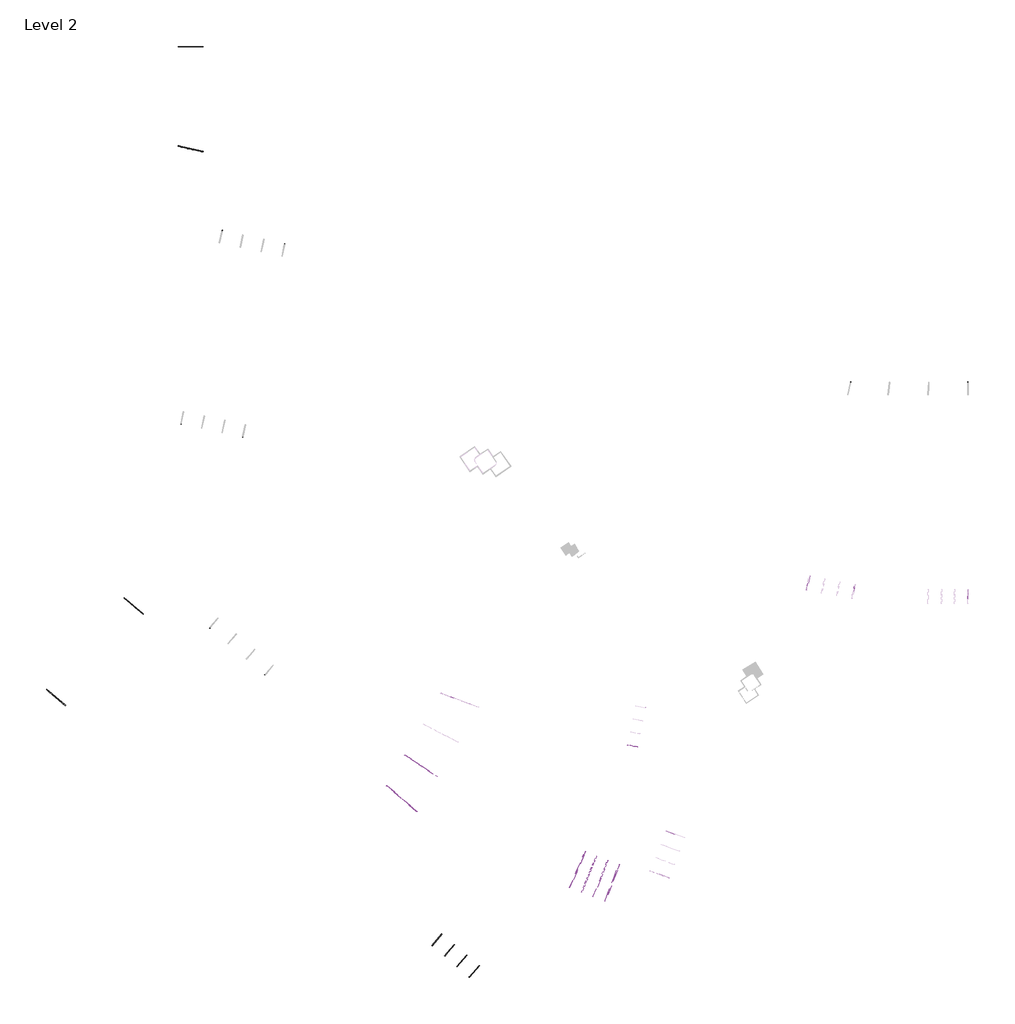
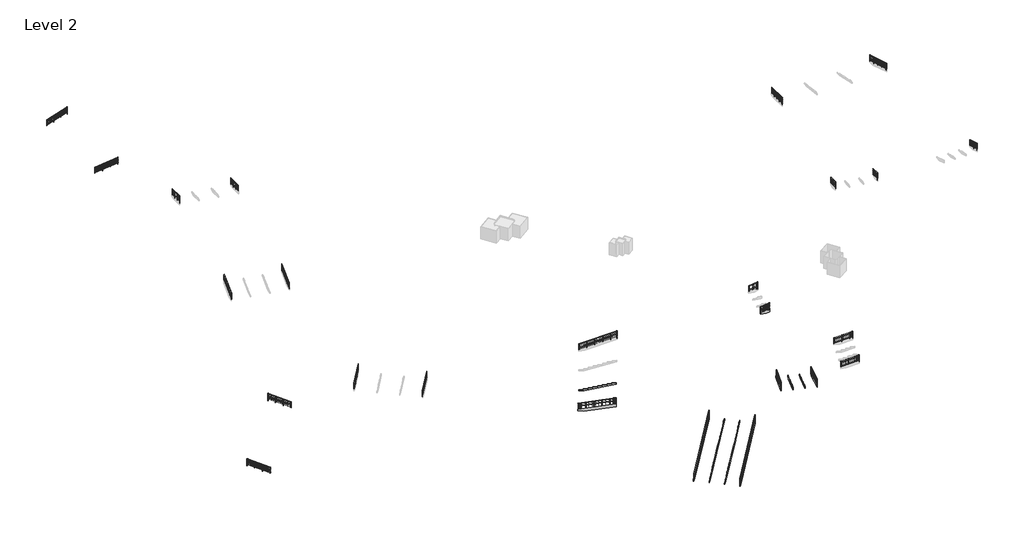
# One storey, part 1 of 2: 25 railings, 11 members.
"""IFC4 building model written with IfcOpenShell, lengths in millimetres."""

from ifc_helpers import new_model, si_unit, frame, origin, place, context, project, spatial, polyline, outline, extrude, faceted_brep, transform, mapped, element, save
from components import railing_900mm_pipe_5b70dc80, railing_900mm_pipe_01e81c91, railing_900mm_pipe_7b3382e1, railing_900mm_pipe_139b20a3, railing_900mm_pipe_c59341c0, railing_900mm_pipe_108c50bf, railing_900mm_pipe_f281c3b3, railing_900mm_pipe_21d8ad47, railing_900mm_pipe_b263f094, railing_900mm_pipe_6dc71ccd, railing_900mm_pipe_92d42454, railing_900mm_pipe_595f3362, railing_900mm_pipe_a12cd0a8, railing_900mm_pipe_9d331aa4, railing_900mm_pipe_833d7426, railing_900mm_pipe_d280c50c, railing_900mm_pipe_afd1aac6, railing_900mm_pipe_5749f562, railing_900mm_pipe_1b75225c, railing_900mm_pipe_fb3da771, railing_900mm_pipe_3a22cfcf, railing_900mm_pipe_d22c0310, railing_900mm_pipe_16247699, railing_900mm_pipe_515d095b, railing_900mm_pipe_20712208

model = new_model("IFC4")

# Units and contexts
model_context = context("Model", 3, world=origin())
ifc_project = project(units=[si_unit("LENGTHUNIT", "METRE", prefix="MILLI")], contexts=[model_context])

# Site, building, storey
site = spatial("IfcSite", under=ifc_project)
building = spatial("IfcBuilding", under=site)
storey = spatial("IfcBuildingStorey", under=building, Name="Level 2", Elevation=4050.0)

# Members
placement = place(None, origin())
element("IfcMember", 1, ObjectType="Stringer - Miscellaneous - 50 mm Width", at=placement, inside=storey, context=model_context, shape_type="SweptSolid", body=[
    extrude(outline(polyline([(121.8836406, -399.9999999), (63.7761968, -209.3019097), (750.6670993, 0.0), (1230.2416302, 1e-07), (1352.1252708, -400.0), (121.8836406, -399.9999999)])), frame((942684.5501295, -35.1985127, 7281.1971374), z_axis=(0.20819542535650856, 0.9780872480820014, 0.0), x_axis=(0.9356163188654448, -0.19915507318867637, 0.29147789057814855)), (0.0, 0.0, 1.0), 50.0),
])
element("IfcMember", 2, ObjectType="Stringer - Miscellaneous - 50 mm Width", at=placement, inside=storey, context=model_context, shape_type="SweptSolid", body=[
    extrude(outline(polyline([(-58.107402, -190.6980937), (0.0, 0.0), (4920.9698364, 0.0), (4799.0862855, -400.0), (628.7839951, -400.0), (-58.107402, -190.6980937)])), frame((941713.4770551, -14235.6768633, 7699.3545412), z_axis=(-0.9347967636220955, 0.3551830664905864, 0.0), x_axis=(-0.3397601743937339, -0.8942056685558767, 0.2914776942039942)), (0.0, 0.0, 1.0), 50.0),
])
element("IfcMember", 3, ObjectType="Stringer - Miscellaneous - 50 mm Width", at=placement, inside=storey, context=model_context, shape_type="SweptSolid", body=[
    extrude(outline(polyline([(-58.0694263, -190.7011786), (0.0, 0.0), (4923.9875666, 0.0), (4802.1856422, -400.0), (629.2721651, -400.0), (-58.0694263, -190.7011786)])), frame((937634.4512033, -12691.417254, 7699.3464266), z_axis=(-0.9216376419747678, 0.3880516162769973, 0.0), x_axis=(-0.37122260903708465, -0.8816680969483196, 0.2912990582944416)), (0.0, 0.0, 1.0), 50.0),
])
element("IfcMember", 4, ObjectType="Carriage - Miscellaneous - 50 mm Width", at=placement, inside=storey, context=model_context, shape_type="Brep", body=[
    faceted_brep([(938989.6731788, -13239.2138631, 7500.0), (938730.8031414, -13874.9050789, 7500.0), (938684.4955899, -13856.0474366, 7500.0), (938942.8974132, -13221.5059854, 7500.0), (937179.4792346, -17551.8234571, 8715.5572883), (937225.7867861, -17570.6810994, 8715.5572883), (937225.7867861, -17570.6810994, 8884.3529412), (937179.4792346, -17551.8234571, 8884.3529412), (938989.6731788, -13239.2138631, 7629.2941176), (938767.6839875, -13784.3390555, 7629.2941176), (938767.6839875, -13784.3390555, 7808.5882353), (938545.6947961, -14329.4642478, 7808.5882353), (938545.6947961, -14329.4642478, 7987.8823529), (938323.7056048, -14874.5894402, 7987.8823529), (938323.7056048, -14874.5894402, 8167.1764706), (938101.7164134, -15419.7146326, 8167.1764706), (938101.7164134, -15419.7146326, 8346.4705882), (937879.7272221, -15964.8398249, 8346.4705882), (937879.7272221, -15964.8398249, 8525.7647059), (937657.7380307, -16509.9650173, 8525.7647059), (937657.7380307, -16509.9650173, 8705.0588235), (937435.7488394, -17055.0902097, 8705.0588235), (937435.7488394, -17055.0902097, 8884.3529412), (937388.9730737, -17037.382332, 8884.3529412), (937388.9730737, -17037.382332, 8705.0588235), (937610.9622651, -16492.2571396, 8705.0588235), (937610.9622651, -16492.2571396, 8525.7647059), (937832.9514564, -15947.1319472, 8525.7647059), (937832.9514564, -15947.1319472, 8346.4705882), (938054.9406478, -15402.0067549, 8346.4705882), (938054.9406478, -15402.0067549, 8167.1764706), (938276.9298391, -14856.8815625, 8167.1764706), (938276.9298391, -14856.8815625, 7987.8823529), (938498.9190305, -14311.7563701, 7987.8823529), (938498.9190305, -14311.7563701, 7808.5882353), (938720.9082218, -13766.6311778, 7808.5882353), (938720.9082218, -13766.6311778, 7629.2941176), (938942.8974132, -13221.5059854, 7629.2941176)], [[[0, 1, 2, 3]], [[4, 5, 6, 7]], [[5, 4, 2, 1]], [[6, 5, 1, 0, 8, 9, 10, 11, 12, 13, 14, 15, 16, 17, 18, 19, 20, 21, 22]], [[22, 23, 7, 6]], [[4, 7, 23, 24, 25, 26, 27, 28, 29, 30, 31, 32, 33, 34, 35, 36, 37, 3, 2]], [[37, 8, 0, 3]], [[8, 37, 36, 9]], [[9, 36, 35, 10]], [[10, 35, 34, 11]], [[11, 34, 33, 12]], [[12, 33, 32, 13]], [[13, 32, 31, 14]], [[14, 31, 30, 15]], [[15, 30, 29, 16]], [[16, 29, 28, 17]], [[17, 28, 27, 18]], [[18, 27, 26, 19]], [[19, 26, 25, 20]], [[20, 25, 24, 21]], [[21, 24, 23, 22]]]),
])
element("IfcMember", 5, ObjectType="Carriage - Miscellaneous - 50 mm Width", at=placement, inside=storey, context=model_context, shape_type="Brep", body=[
    faceted_brep([(940334.1221866, -13748.181237, 7500.0), (940082.9311858, -14386.4823785, 7500.0), (940036.4042822, -14368.1726204, 7500.0), (940287.3568682, -13730.4773143, 7500.0), (938575.4468769, -18080.6096763, 8715.5520622), (938621.9737805, -18098.9194344, 8715.5520622), (938621.9737805, -18098.9194344, 8884.3529412), (938575.4468769, -18080.6096763, 8884.3529412), (940334.1221866, -13748.181237, 7629.2941176), (940118.6307428, -14295.7662784, 7629.2941176), (940118.6307428, -14295.7662784, 7808.5882353), (939903.139299, -14843.3513197, 7808.5882353), (939903.139299, -14843.3513197, 7987.8823529), (939687.6478552, -15390.9363611, 7987.8823529), (939687.6478552, -15390.9363611, 8167.1764706), (939472.1564114, -15938.5214024, 8167.1764706), (939472.1564114, -15938.5214024, 8346.4705882), (939256.6649676, -16486.1064437, 8346.4705882), (939256.6649676, -16486.1064437, 8525.7647059), (939041.1735238, -17033.6914851, 8525.7647059), (939041.1735238, -17033.6914851, 8705.0588235), (938825.68208, -17581.2765264, 8705.0588235), (938825.68208, -17581.2765264, 8884.3529412), (938778.9167617, -17563.5726038, 8884.3529412), (938778.9167617, -17563.5726038, 8705.0588235), (938994.4082055, -17015.9875624, 8705.0588235), (938994.4082055, -17015.9875624, 8525.7647059), (939209.8996493, -16468.4025211, 8525.7647059), (939209.8996493, -16468.4025211, 8346.4705882), (939425.391093, -15920.8174797, 8346.4705882), (939425.391093, -15920.8174797, 8167.1764706), (939640.8825368, -15373.2324384, 8167.1764706), (939640.8825368, -15373.2324384, 7987.8823529), (939856.3739806, -14825.647397, 7987.8823529), (939856.3739806, -14825.647397, 7808.5882353), (940071.8654244, -14278.0623557, 7808.5882353), (940071.8654244, -14278.0623557, 7629.2941176), (940287.3568682, -13730.4773143, 7629.2941176)], [[[0, 1, 2, 3]], [[4, 5, 6, 7]], [[5, 4, 2, 1]], [[6, 5, 1, 0, 8, 9, 10, 11, 12, 13, 14, 15, 16, 17, 18, 19, 20, 21, 22]], [[22, 23, 7, 6]], [[4, 7, 23, 24, 25, 26, 27, 28, 29, 30, 31, 32, 33, 34, 35, 36, 37, 3, 2]], [[37, 8, 0, 3]], [[8, 37, 36, 9]], [[9, 36, 35, 10]], [[10, 35, 34, 11]], [[11, 34, 33, 12]], [[12, 33, 32, 13]], [[13, 32, 31, 14]], [[14, 31, 30, 15]], [[15, 30, 29, 16]], [[16, 29, 28, 17]], [[17, 28, 27, 18]], [[18, 27, 26, 19]], [[19, 26, 25, 20]], [[20, 25, 24, 21]], [[21, 24, 23, 22]]]),
])
element("IfcMember", 6, ObjectType="Stringer - Miscellaneous - 50 mm Width", at=placement, inside=storey, context=model_context, shape_type="SweptSolid", body=[
    extrude(outline(polyline([(92.9620986, -400.0), (38.7231735, -166.6191882), (755.6570235, 0.0), (10712.573424, 0.0), (10805.5355226, -400.0), (92.9620986, -400.0)])), frame((919403.4543344, -23932.3659661, 4828.9402501), z_axis=(-0.7621511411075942, 0.6473991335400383, 0.0), x_axis=(0.6305932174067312, 0.7423663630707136, 0.22637220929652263)), (0.0, 0.0, 1.0), 50.0),
])
element("IfcMember", 7, ObjectType="Stringer - Miscellaneous - 50 mm Width", at=placement, inside=storey, context=model_context, shape_type="SweptSolid", body=[
    extrude(outline(polyline([(92.9620988, -400.0), (38.7231736, -166.6191882), (755.6570225, 0.0), (10712.5734078, 0.0), (10805.5355065, -400.0), (92.9620988, -400.0)])), frame((923835.1540285, -27696.3827793, 4828.9402501), z_axis=(-0.7621877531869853, 0.6473560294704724, 0.0), x_axis=(0.6305512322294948, 0.7424020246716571, 0.22637220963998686)), (0.0, 0.0, 1.0), 50.0),
])
element("IfcMember", 8, ObjectType="Carriage - Miscellaneous - 50 mm Width", at=placement, inside=storey, context=model_context, shape_type="Brep", body=[
    faceted_brep([(922334.4993828, -26379.1773678, 5000.0), (922789.9511924, -25842.9553929, 5000.0), (922828.0599698, -25875.3239127, 5000.0), (922372.6087704, -26411.5451693, 5000.0), (927145.5276349, -20714.9577584, 6563.6470588), (927183.6364123, -20747.3262783, 6563.6470588), (923477.2585294, -25033.7604573, 5657.4029483), (923504.4829105, -25001.7080841, 5667.1764706), (923858.178245, -24585.2881538, 5667.1764706), (923858.178245, -24585.2881538, 5794.1526991), (924003.910982, -24413.7110639, 5846.4705882), (924239.0979606, -24136.8158503, 5846.4705882), (924239.0979606, -24136.8158503, 5930.9024498), (924503.3390535, -23825.7140437, 6025.7647059), (924620.0176761, -23688.3435468, 6025.7647059), (924620.0176761, -23688.3435468, 6067.6522006), (926001.623268, -22061.7229833, 6563.6470588), (922334.4993828, -26379.1773678, 5129.2941176), (922715.4190983, -25930.7050643, 5129.2941176), (922715.4190983, -25930.7050643, 5308.5882353), (923096.3388139, -25482.2327608, 5308.5882353), (923096.3388139, -25482.2327608, 5487.8823529), (923477.2585294, -25033.7604573, 5487.8823529), (923542.591688, -25034.076604, 5667.1764706), (923515.3679171, -25066.1282588, 5657.4031674), (923515.3679171, -25066.1282588, 5487.8823529), (923134.4482016, -25514.6005623, 5487.8823529), (923134.4482016, -25514.6005623, 5308.5882353), (922753.528486, -25963.0728658, 5308.5882353), (922753.528486, -25963.0728658, 5129.2941176), (922372.6087704, -26411.5451693, 5129.2941176), (926039.7320455, -22094.0915032, 6563.6470588), (924658.1270638, -23720.7113482, 6067.6524196), (924658.1270638, -23720.7113482, 6025.7647059), (924541.447831, -23858.0825636, 6025.7647059), (924277.2073482, -24169.1836517, 5930.9026689), (924277.2073482, -24169.1836517, 5846.4705882), (924042.0197595, -24446.0795838, 5846.4705882), (923896.2876327, -24617.6559553, 5794.1529181), (923896.2876327, -24617.6559553, 5667.1764706)], [[[0, 1, 2, 3]], [[1, 4, 5, 2]], [[6, 7, 8, 9, 10, 11, 12, 13, 14, 15, 16, 4, 1, 0, 17, 18, 19, 20, 21, 22]], [[23, 24, 25, 26, 27, 28, 29, 30, 3, 2, 5, 31, 32, 33, 34, 35, 36, 37, 38, 39]], [[24, 23, 7, 6]], [[38, 37, 10, 9]], [[35, 34, 13, 12]], [[32, 31, 16, 15]], [[39, 8, 7, 23]], [[22, 25, 24, 6]], [[36, 11, 10, 37]], [[8, 39, 38, 9]], [[33, 14, 13, 34]], [[11, 36, 35, 12]], [[16, 31, 5, 4]], [[14, 33, 32, 15]], [[30, 17, 0, 3]], [[17, 30, 29, 18]], [[18, 29, 28, 19]], [[19, 28, 27, 20]], [[20, 27, 26, 21]], [[21, 26, 25, 22]]]),
    faceted_brep([(929106.5452166, -18483.4073849, 7253.9691633), (929068.4364391, -18451.0388651, 7253.9691633), (929068.4364391, -18451.0388651, 7460.1176471), (929106.5452166, -18483.4073849, 7460.1176471), (927222.9864818, -20700.9978379, 6577.7736897), (927184.8770942, -20668.6300364, 6577.7734706), (927184.8770942, -20668.6300364, 6742.9411765), (927565.7968097, -20220.1577329, 6742.9411765), (927565.7968097, -20220.1577329, 6922.2352941), (927946.7165253, -19771.6854294, 6922.2352941), (927946.7165253, -19771.6854294, 7101.5294118), (928327.6362408, -19323.2131259, 7101.5294118), (928327.6362408, -19323.2131259, 7280.8235294), (928708.5559564, -18874.7408224, 7280.8235294), (928708.5559564, -18874.7408224, 7460.1176471), (928746.6653441, -18907.1086239, 7460.1176471), (928746.6653441, -18907.1086239, 7280.8235294), (928365.7456285, -19355.5809274, 7280.8235294), (928365.7456285, -19355.5809274, 7101.5294118), (927984.8259129, -19804.0532309, 7101.5294118), (927984.8259129, -19804.0532309, 6922.2352941), (927603.9061974, -20252.5255344, 6922.2352941), (927603.9061974, -20252.5255344, 6742.9411765), (927222.9864818, -20700.9978379, 6742.9411765)], [[[0, 1, 2, 3]], [[1, 0, 4, 5]], [[2, 1, 5, 6, 7, 8, 9, 10, 11, 12, 13, 14]], [[14, 15, 3, 2]], [[0, 3, 15, 16, 17, 18, 19, 20, 21, 22, 23, 4]], [[23, 6, 5, 4]], [[6, 23, 22, 7]], [[7, 22, 21, 8]], [[8, 21, 20, 9]], [[9, 20, 19, 10]], [[10, 19, 18, 11]], [[11, 18, 17, 12]], [[12, 17, 16, 13]], [[13, 16, 15, 14]]]),
])
element("IfcMember", 9, ObjectType="Carriage - Miscellaneous - 50 mm Width", at=placement, inside=storey, context=model_context, shape_type="Brep", body=[
    faceted_brep([(920869.9697476, -25135.2947605, 5000.0), (921325.431971, -24599.0810121, 5000.0), (921363.5401383, -24631.4502504, 5000.0), (920908.0791353, -25167.662562, 5000.0), (925681.1050854, -19471.1654849, 6563.6470588), (925719.2132527, -19503.5347232, 6563.6470588), (922012.7542578, -23789.8993922, 5657.4028388), (922039.9795482, -23757.847173, 5667.1764706), (922393.6824278, -23341.4342695, 5667.1764706), (922393.6824278, -23341.4342695, 5794.1525895), (922539.4187045, -23169.8595676, 5846.4705882), (922774.6105979, -22892.9691467, 5846.4705882), (922774.6105979, -22892.9691467, 5930.9023403), (923038.8578608, -22581.8719622, 6025.7647059), (923155.5387679, -22444.5040239, 6025.7647059), (923155.5387679, -22444.5040239, 6067.652091), (924537.1753297, -20817.909146, 6563.6470588), (920869.9697476, -25135.2947605, 5129.2941176), (921250.8979177, -24686.8296378, 5129.2941176), (921250.8979177, -24686.8296378, 5308.5882353), (921631.8260877, -24238.364515, 5308.5882353), (921631.8260877, -24238.364515, 5487.8823529), (922012.7542578, -23789.8993922, 5487.8823529), (922078.0877155, -23790.2164113, 5667.1764706), (922050.8636455, -23822.2671937, 5657.4032769), (922050.8636455, -23822.2671937, 5487.8823529), (921669.9354754, -24270.7323165, 5487.8823529), (921669.9354754, -24270.7323165, 5308.5882353), (921289.0073053, -24719.1974393, 5308.5882353), (921289.0073053, -24719.1974393, 5129.2941176), (920908.0791353, -25167.662562, 5129.2941176), (924575.283497, -20850.2783842, 6563.6470588), (923193.6481556, -22476.8718254, 6067.6525291), (923193.6481556, -22476.8718254, 6025.7647059), (923076.9660281, -22614.2412005, 6025.7647059), (922812.7199856, -22925.3369482, 5930.9027784), (922812.7199856, -22925.3369482, 5846.4705882), (922577.5268718, -23202.2288059, 5846.4705882), (922431.7918155, -23373.802071, 5794.1530276), (922431.7918155, -23373.802071, 5667.1764706)], [[[0, 1, 2, 3]], [[1, 4, 5, 2]], [[6, 7, 8, 9, 10, 11, 12, 13, 14, 15, 16, 4, 1, 0, 17, 18, 19, 20, 21, 22]], [[23, 24, 25, 26, 27, 28, 29, 30, 3, 2, 5, 31, 32, 33, 34, 35, 36, 37, 38, 39]], [[24, 23, 7, 6]], [[38, 37, 10, 9]], [[35, 34, 13, 12]], [[32, 31, 16, 15]], [[39, 8, 7, 23]], [[22, 25, 24, 6]], [[36, 11, 10, 37]], [[8, 39, 38, 9]], [[33, 14, 13, 34]], [[11, 36, 35, 12]], [[16, 31, 5, 4]], [[14, 33, 32, 15]], [[30, 17, 0, 3]], [[17, 30, 29, 18]], [[18, 29, 28, 19]], [[19, 28, 27, 20]], [[20, 27, 26, 21]], [[21, 26, 25, 22]]]),
    faceted_brep([(927642.1647359, -17239.6520787, 7253.9691633), (927604.0565686, -17207.2828404, 7253.9691633), (927604.0565686, -17207.2828404, 7460.1176471), (927642.1647359, -17239.6520787, 7460.1176471), (925758.5645007, -19457.2066654, 6577.7737992), (925720.455113, -19424.8388639, 6577.7733611), (925720.455113, -19424.8388639, 6742.9411765), (926101.383283, -18976.3737412, 6742.9411765), (926101.383283, -18976.3737412, 6922.2352941), (926482.3114531, -18527.9086184, 6922.2352941), (926482.3114531, -18527.9086184, 7101.5294118), (926863.2396232, -18079.4434956, 7101.5294118), (926863.2396232, -18079.4434956, 7280.8235294), (927244.1677932, -17630.9783729, 7280.8235294), (927244.1677932, -17630.9783729, 7460.1176471), (927282.2771809, -17663.3461744, 7460.1176471), (927282.2771809, -17663.3461744, 7280.8235294), (926901.3490108, -18111.8112971, 7280.8235294), (926901.3490108, -18111.8112971, 7101.5294118), (926520.4208408, -18560.2764199, 7101.5294118), (926520.4208408, -18560.2764199, 6922.2352941), (926139.4926707, -19008.7415427, 6922.2352941), (926139.4926707, -19008.7415427, 6742.9411765), (925758.5645007, -19457.2066654, 6742.9411765)], [[[0, 1, 2, 3]], [[1, 0, 4, 5]], [[2, 1, 5, 6, 7, 8, 9, 10, 11, 12, 13, 14]], [[14, 15, 3, 2]], [[0, 3, 15, 16, 17, 18, 19, 20, 21, 22, 23, 4]], [[23, 6, 5, 4]], [[6, 23, 22, 7]], [[7, 22, 21, 8]], [[8, 21, 20, 9]], [[9, 20, 19, 10]], [[10, 19, 18, 11]], [[11, 18, 17, 12]], [[12, 17, 16, 13]], [[13, 16, 15, 14]]]),
])
element("IfcMember", 10, ObjectType="Stringer - Miscellaneous - 50 mm Width", at=placement, inside=storey, context=model_context, shape_type="SweptSolid", body=[
    extrude(outline(polyline([(120.0704777, -400.0), (62.8067144, -209.2328291), (759.8401004, 1e-07), (4989.0067977, 1e-07), (5109.0772754, -400.0), (120.0704777, -400.0)])), frame((913919.6136975, -4871.7754076, 5781.5439171), z_axis=(0.6473493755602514, 0.7621934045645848, 0.0), x_axis=(0.7300134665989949, -0.6200181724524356, 0.2875027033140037)), (0.0, 0.0, 1.0), 50.0),
])
element("IfcMember", 11, ObjectType="Carriage - Miscellaneous - 50 mm Width", at=placement, inside=storey, context=model_context, shape_type="Brep", body=[
    faceted_brep([(916146.662174, -1164.0615542, 6000.0), (916718.0909152, -1547.4847434, 6000.0), (916690.2317472, -1589.0042178, 6000.0), (916121.2801505, -1207.2431687, 6000.0), (920008.8377023, -3815.7568947, 7215.5916008), (920036.6968703, -3774.2374202, 7215.5916008), (920036.6968703, -3774.2374202, 7384.3529412), (920008.8377023, -3815.7568947, 7384.3529412), (916146.662174, -1164.0615542, 6129.2941176), (916636.1411455, -1492.4972361, 6129.2941176), (916636.1411455, -1492.4972361, 6308.5882353), (917125.6201171, -1820.9329181, 6308.5882353), (917125.6201171, -1820.9329181, 6487.8823529), (917615.0990886, -2149.3686001, 6487.8823529), (917615.0990886, -2149.3686001, 6667.1764706), (918104.5780601, -2477.8042821, 6667.1764706), (918104.5780601, -2477.8042821, 6846.4705882), (918594.0570316, -2806.2399641, 6846.4705882), (918594.0570316, -2806.2399641, 7025.7647059), (919083.5360031, -3134.6756461, 7025.7647059), (919083.5360031, -3134.6756461, 7205.0588235), (919573.0149747, -3463.1113281, 7205.0588235), (919573.0149747, -3463.1113281, 7384.3529412), (919547.6329511, -3506.2929426, 7384.3529412), (919547.6329511, -3506.2929426, 7205.0588235), (919058.1539796, -3177.8572606, 7205.0588235), (919058.1539796, -3177.8572606, 7025.7647059), (918568.6750081, -2849.4215786, 7025.7647059), (918568.6750081, -2849.4215786, 6846.4705882), (918079.1960366, -2520.9858967, 6846.4705882), (918079.1960366, -2520.9858967, 6667.1764706), (917589.717065, -2192.5502147, 6667.1764706), (917589.717065, -2192.5502147, 6487.8823529), (917100.2380935, -1864.1145327, 6487.8823529), (917100.2380935, -1864.1145327, 6308.5882353), (916610.759122, -1535.6788507, 6308.5882353), (916610.759122, -1535.6788507, 6129.2941176), (916121.2801505, -1207.2431687, 6129.2941176)], [[[0, 1, 2, 3]], [[4, 5, 6, 7]], [[5, 4, 2, 1]], [[6, 5, 1, 0, 8, 9, 10, 11, 12, 13, 14, 15, 16, 17, 18, 19, 20, 21, 22]], [[22, 23, 7, 6]], [[4, 7, 23, 24, 25, 26, 27, 28, 29, 30, 31, 32, 33, 34, 35, 36, 37, 3, 2]], [[37, 8, 0, 3]], [[8, 37, 36, 9]], [[9, 36, 35, 10]], [[10, 35, 34, 11]], [[11, 34, 33, 12]], [[12, 33, 32, 13]], [[13, 32, 31, 14]], [[14, 31, 30, 15]], [[15, 30, 29, 16]], [[16, 29, 28, 17]], [[17, 28, 27, 18]], [[18, 27, 26, 19]], [[19, 26, 25, 20]], [[20, 25, 24, 21]], [[21, 24, 23, 22]]]),
])

# Railings
railing_900mm_pipe_shape = railing_900mm_pipe_5b70dc80(model_context)
element("IfcRailing", 12, ObjectType="900mm Pipe", at=placement, inside=storey, context=model_context, shape_type="MappedRepresentation", body=[
    mapped(railing_900mm_pipe_shape, transform((0.0, 0.0, 0.0), x_axis=(1.0, 0.0, 0.0), y_axis=(0.0, 1.0, 0.0), z_axis=(0.0, 0.0, 1.0))),
])
railing_900mm_pipe_2_shape = railing_900mm_pipe_01e81c91(model_context)
element("IfcRailing", 13, ObjectType="900mm Pipe", at=placement, inside=storey, context=model_context, shape_type="MappedRepresentation", body=[
    mapped(railing_900mm_pipe_2_shape, transform((0.0, 0.0, 0.0), x_axis=(1.0, 0.0, 0.0), y_axis=(0.0, 1.0, 0.0), z_axis=(0.0, 0.0, 1.0))),
])
railing_900mm_pipe_3_shape = railing_900mm_pipe_7b3382e1(model_context)
element("IfcRailing", 14, ObjectType="900mm Pipe", at=placement, inside=storey, context=model_context, shape_type="MappedRepresentation", body=[
    mapped(railing_900mm_pipe_3_shape, transform((0.0, 0.0, 0.0), x_axis=(1.0, 0.0, 0.0), y_axis=(0.0, 1.0, 0.0), z_axis=(0.0, 0.0, 1.0))),
])
railing_900mm_pipe_4_shape = railing_900mm_pipe_139b20a3(model_context)
element("IfcRailing", 15, ObjectType="900mm Pipe", at=placement, inside=storey, context=model_context, shape_type="MappedRepresentation", body=[
    mapped(railing_900mm_pipe_4_shape, transform((0.0, 0.0, 0.0), x_axis=(1.0, 0.0, 0.0), y_axis=(0.0, 1.0, 0.0), z_axis=(0.0, 0.0, 1.0))),
])
railing_900mm_pipe_5_shape = railing_900mm_pipe_c59341c0(model_context)
element("IfcRailing", 16, ObjectType="900mm Pipe", at=placement, inside=storey, context=model_context, shape_type="MappedRepresentation", body=[
    mapped(railing_900mm_pipe_5_shape, transform((0.0, 0.0, 0.0), x_axis=(1.0, 0.0, 0.0), y_axis=(0.0, 1.0, 0.0), z_axis=(0.0, 0.0, 1.0))),
])
railing_900mm_pipe_6_shape = railing_900mm_pipe_108c50bf(model_context)
element("IfcRailing", 17, ObjectType="900mm Pipe", at=placement, inside=storey, context=model_context, shape_type="MappedRepresentation", body=[
    mapped(railing_900mm_pipe_6_shape, transform((0.0, 0.0, 0.0), x_axis=(1.0, 0.0, 0.0), y_axis=(0.0, 1.0, 0.0), z_axis=(0.0, 0.0, 1.0))),
])
railing_900mm_pipe_7_shape = railing_900mm_pipe_f281c3b3(model_context)
element("IfcRailing", 18, ObjectType="900mm Pipe", at=placement, inside=storey, context=model_context, shape_type="MappedRepresentation", body=[
    mapped(railing_900mm_pipe_7_shape, transform((0.0, 0.0, 0.0), x_axis=(1.0, 0.0, 0.0), y_axis=(0.0, 1.0, 0.0), z_axis=(0.0, 0.0, 1.0))),
])
railing_900mm_pipe_8_shape = railing_900mm_pipe_21d8ad47(model_context)
element("IfcRailing", 19, ObjectType="900mm Pipe", at=placement, inside=storey, context=model_context, shape_type="MappedRepresentation", body=[
    mapped(railing_900mm_pipe_8_shape, transform((0.0, 0.0, 0.0), x_axis=(1.0, 0.0, 0.0), y_axis=(0.0, 1.0, 0.0), z_axis=(0.0, 0.0, 1.0))),
])
railing_900mm_pipe_9_shape = railing_900mm_pipe_b263f094(model_context)
element("IfcRailing", 20, ObjectType="900mm Pipe", at=placement, inside=storey, context=model_context, shape_type="MappedRepresentation", body=[
    mapped(railing_900mm_pipe_9_shape, transform((0.0, 0.0, 0.0), x_axis=(1.0, 0.0, 0.0), y_axis=(0.0, 1.0, 0.0), z_axis=(0.0, 0.0, 1.0))),
])
railing_900mm_pipe_10_shape = railing_900mm_pipe_6dc71ccd(model_context)
element("IfcRailing", 21, ObjectType="900mm Pipe", at=placement, inside=storey, context=model_context, shape_type="MappedRepresentation", body=[
    mapped(railing_900mm_pipe_10_shape, transform((0.0, 0.0, 0.0), x_axis=(1.0, 0.0, 0.0), y_axis=(0.0, 1.0, 0.0), z_axis=(0.0, 0.0, 1.0))),
])
railing_900mm_pipe_11_shape = railing_900mm_pipe_92d42454(model_context)
element("IfcRailing", 22, ObjectType="900mm Pipe", at=placement, inside=storey, context=model_context, shape_type="MappedRepresentation", body=[
    mapped(railing_900mm_pipe_11_shape, transform((0.0, 0.0, 0.0), x_axis=(1.0, 0.0, 0.0), y_axis=(0.0, 1.0, 0.0), z_axis=(0.0, 0.0, 1.0))),
])
railing_900mm_pipe_12_shape = railing_900mm_pipe_595f3362(model_context)
element("IfcRailing", 23, ObjectType="900mm Pipe", at=placement, inside=storey, context=model_context, shape_type="MappedRepresentation", body=[
    mapped(railing_900mm_pipe_12_shape, transform((0.0, 0.0, 0.0), x_axis=(1.0, 0.0, 0.0), y_axis=(0.0, 1.0, 0.0), z_axis=(0.0, 0.0, 1.0))),
])
railing_900mm_pipe_13_shape = railing_900mm_pipe_a12cd0a8(model_context)
element("IfcRailing", 24, ObjectType="900mm Pipe", at=placement, inside=storey, context=model_context, shape_type="MappedRepresentation", body=[
    mapped(railing_900mm_pipe_13_shape, transform((0.0, 0.0, 0.0), x_axis=(1.0, 0.0, 0.0), y_axis=(0.0, 1.0, 0.0), z_axis=(0.0, 0.0, 1.0))),
])
railing_900mm_pipe_14_shape = railing_900mm_pipe_9d331aa4(model_context)
element("IfcRailing", 25, ObjectType="900mm Pipe", at=placement, inside=storey, context=model_context, shape_type="MappedRepresentation", body=[
    mapped(railing_900mm_pipe_14_shape, transform((0.0, 0.0, 0.0), x_axis=(1.0, 0.0, 0.0), y_axis=(0.0, 1.0, 0.0), z_axis=(0.0, 0.0, 1.0))),
])
railing_900mm_pipe_15_shape = railing_900mm_pipe_833d7426(model_context)
element("IfcRailing", 26, ObjectType="900mm Pipe", at=placement, inside=storey, context=model_context, shape_type="MappedRepresentation", body=[
    mapped(railing_900mm_pipe_15_shape, transform((0.0, 0.0, 0.0), x_axis=(1.0, 0.0, 0.0), y_axis=(0.0, 1.0, 0.0), z_axis=(0.0, 0.0, 1.0))),
])
railing_900mm_pipe_16_shape = railing_900mm_pipe_d280c50c(model_context)
element("IfcRailing", 27, ObjectType="900mm Pipe", at=placement, inside=storey, context=model_context, shape_type="MappedRepresentation", body=[
    mapped(railing_900mm_pipe_16_shape, transform((0.0, 0.0, 0.0), x_axis=(1.0, 0.0, 0.0), y_axis=(0.0, 1.0, 0.0), z_axis=(0.0, 0.0, 1.0))),
])
railing_900mm_pipe_17_shape = railing_900mm_pipe_afd1aac6(model_context)
element("IfcRailing", 28, ObjectType="900mm Pipe", at=placement, inside=storey, context=model_context, shape_type="MappedRepresentation", body=[
    mapped(railing_900mm_pipe_17_shape, transform((0.0, 0.0, 0.0), x_axis=(1.0, 0.0, 0.0), y_axis=(0.0, 1.0, 0.0), z_axis=(0.0, 0.0, 1.0))),
])
railing_900mm_pipe_18_shape = railing_900mm_pipe_5749f562(model_context)
element("IfcRailing", 29, ObjectType="900mm Pipe", at=placement, inside=storey, context=model_context, shape_type="MappedRepresentation", body=[
    mapped(railing_900mm_pipe_18_shape, transform((0.0, 0.0, 0.0), x_axis=(1.0, 0.0, 0.0), y_axis=(0.0, 1.0, 0.0), z_axis=(0.0, 0.0, 1.0))),
])
railing_900mm_pipe_19_shape = railing_900mm_pipe_1b75225c(model_context)
element("IfcRailing", 30, ObjectType="900mm Pipe", at=placement, inside=storey, context=model_context, shape_type="MappedRepresentation", body=[
    mapped(railing_900mm_pipe_19_shape, transform((0.0, 0.0, 0.0), x_axis=(1.0, 0.0, 0.0), y_axis=(0.0, 1.0, 0.0), z_axis=(0.0, 0.0, 1.0))),
])
railing_900mm_pipe_20_shape = railing_900mm_pipe_fb3da771(model_context)
element("IfcRailing", 31, ObjectType="900mm Pipe", at=placement, inside=storey, context=model_context, shape_type="MappedRepresentation", body=[
    mapped(railing_900mm_pipe_20_shape, transform((0.0, 0.0, 0.0), x_axis=(1.0, 0.0, 0.0), y_axis=(0.0, 1.0, 0.0), z_axis=(0.0, 0.0, 1.0))),
])
railing_900mm_pipe_21_shape = railing_900mm_pipe_3a22cfcf(model_context)
element("IfcRailing", 32, ObjectType="900mm Pipe", at=placement, inside=storey, context=model_context, shape_type="MappedRepresentation", body=[
    mapped(railing_900mm_pipe_21_shape, transform((0.0, 0.0, 0.0), x_axis=(1.0, 0.0, 0.0), y_axis=(0.0, 1.0, 0.0), z_axis=(0.0, 0.0, 1.0))),
])
railing_900mm_pipe_22_shape = railing_900mm_pipe_d22c0310(model_context)
element("IfcRailing", 33, ObjectType="900mm Pipe", at=placement, inside=storey, context=model_context, shape_type="MappedRepresentation", body=[
    mapped(railing_900mm_pipe_22_shape, transform((0.0, 0.0, 0.0), x_axis=(1.0, 0.0, 0.0), y_axis=(0.0, 1.0, 0.0), z_axis=(0.0, 0.0, 1.0))),
])
railing_900mm_pipe_23_shape = railing_900mm_pipe_16247699(model_context)
element("IfcRailing", 34, ObjectType="900mm Pipe", at=placement, inside=storey, context=model_context, shape_type="MappedRepresentation", body=[
    mapped(railing_900mm_pipe_23_shape, transform((0.0, 0.0, 0.0), x_axis=(1.0, 0.0, 0.0), y_axis=(0.0, 1.0, 0.0), z_axis=(0.0, 0.0, 1.0))),
])
railing_900mm_pipe_24_shape = railing_900mm_pipe_515d095b(model_context)
element("IfcRailing", 35, ObjectType="900mm Pipe", at=placement, inside=storey, context=model_context, shape_type="MappedRepresentation", body=[
    mapped(railing_900mm_pipe_24_shape, transform((0.0, 0.0, 0.0), x_axis=(1.0, 0.0, 0.0), y_axis=(0.0, 1.0, 0.0), z_axis=(0.0, 0.0, 1.0))),
])
railing_900mm_pipe_25_shape = railing_900mm_pipe_20712208(model_context)
element("IfcRailing", 36, ObjectType="900mm Pipe", at=placement, inside=storey, context=model_context, shape_type="MappedRepresentation", body=[
    mapped(railing_900mm_pipe_25_shape, transform((0.0, 0.0, 0.0), x_axis=(1.0, 0.0, 0.0), y_axis=(0.0, 1.0, 0.0), z_axis=(0.0, 0.0, 1.0))),
])

save(model, "model.ifc")
